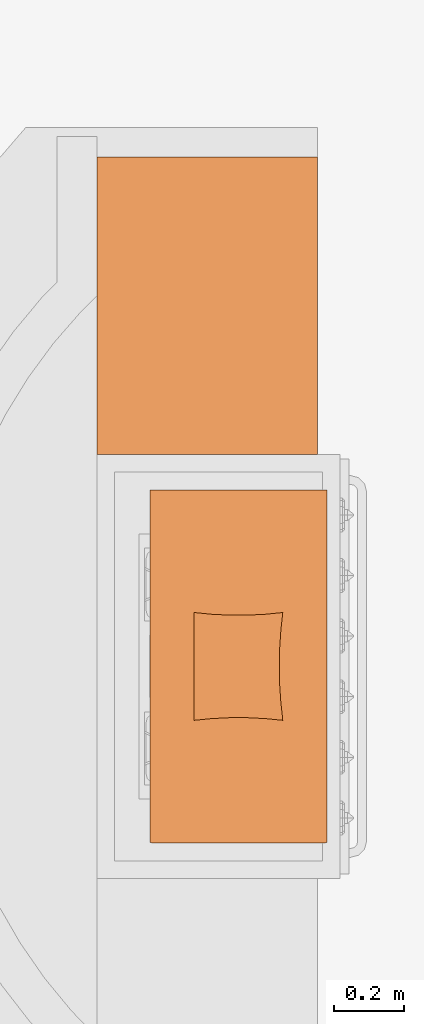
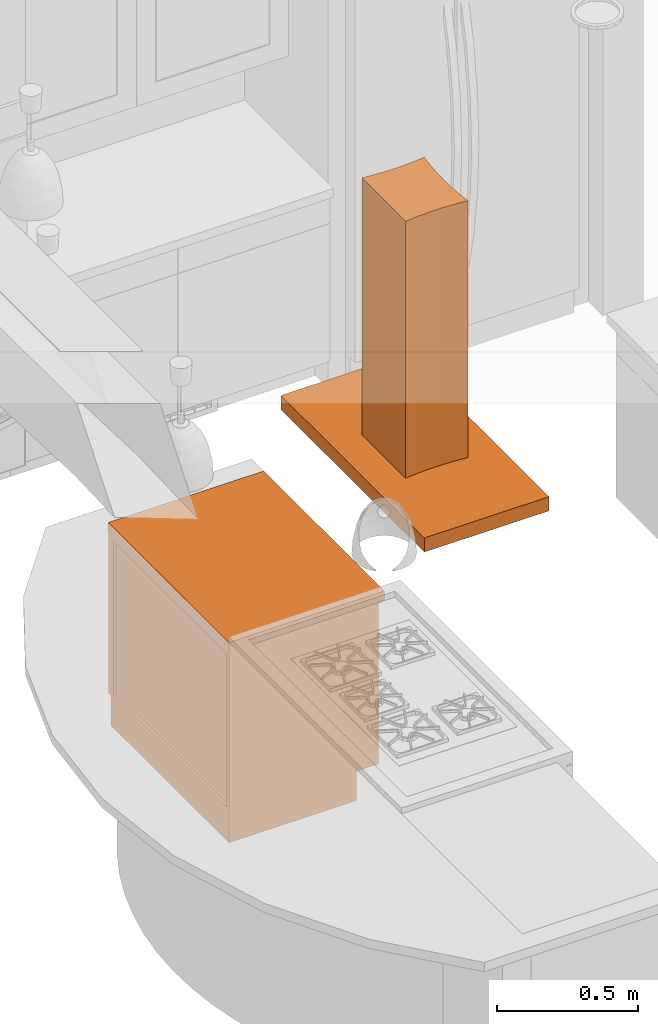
# One storey, part 63 of 77: 2 proxies.
"""IFC2X3 building model written with IfcOpenShell, lengths in inches."""

from ifc_helpers import new_model, entity, si_unit, converted_unit, derived_unit, money_unit, direction, frame, origin_with_axes, place, context, subcontext, project, spatial, open_shell, faceted_brep, surface_model, type_object, element, save


model = new_model("IFC2X3")

# Units and contexts
model_context = context("Model", 3, precision=0.000393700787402, world=origin_with_axes(), true_north=direction((0.0, 1.0)))
body_context = subcontext(model_context, "Body", "Model", "MODEL_VIEW")
ifc_project = project(units=[converted_unit("LENGTHUNIT", "INCH", entity("IfcPositiveLengthMeasure", 0.0254), si_unit("LENGTHUNIT", "METRE"), dimensions=[1, 0, 0, 0, 0, 0, 0]), converted_unit("AREAUNIT", "SQUARE_FOOT", entity("IfcPositiveLengthMeasure", 0.09290304), si_unit("AREAUNIT", "SQUARE_METRE"), dimensions=[2, 0, 0, 0, 0, 0, 0]), si_unit("PLANEANGLEUNIT", "RADIAN"), si_unit("SOLIDANGLEUNIT", "STERADIAN"), money_unit("USD"), converted_unit("TIMEUNIT", "Year", entity("IfcTimeMeasure", 31556926.0), si_unit("TIMEUNIT", "SECOND"), dimensions=[0, 0, 1, 0, 0, 0, 0]), si_unit("MASSUNIT", "GRAM", prefix="KILO"), si_unit("THERMODYNAMICTEMPERATUREUNIT", "DEGREE_CELSIUS"), si_unit("LUMINOUSINTENSITYUNIT", "LUMEN"), si_unit("ENERGYUNIT", "JOULE", prefix="MEGA"), derived_unit("THERMALCONDUCTANCEUNIT", [(si_unit("POWERUNIT", "WATT"), 1), (si_unit("LENGTHUNIT", "METRE"), -1), (si_unit("THERMODYNAMICTEMPERATUREUNIT", "KELVIN"), -1)]), derived_unit("SPECIFICHEATCAPACITYUNIT", [(si_unit("ENERGYUNIT", "JOULE"), 1), (si_unit("MASSUNIT", "GRAM", prefix="KILO"), -1), (si_unit("THERMODYNAMICTEMPERATUREUNIT", "KELVIN"), -1)]), derived_unit("MASSDENSITYUNIT", [(si_unit("MASSUNIT", "GRAM", prefix="KILO"), 1), (si_unit("VOLUMEUNIT", "CUBIC_METRE"), -1)])], contexts=[model_context])

# Site, building, storey
site_placement = place(None, origin_with_axes())
site = spatial("IfcSite", under=ifc_project, at=site_placement, Name="Site", CompositionType="ELEMENT")
building_placement = place(site_placement, origin_with_axes())
building = spatial("IfcBuilding", under=site, at=building_placement, Name="Building", CompositionType="ELEMENT")
storey_placement = place(building_placement, frame((0.0, 0.0, 127.952755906), z_axis=(0.0, 0.0, 1.0), x_axis=(1.0, 0.0, 0.0)))
storey = spatial("IfcBuildingStorey", under=building, at=storey_placement, Name="Second Floor", CompositionType="ELEMENT", Elevation=127.953)

# Proxies
building_element_proxy_type_1 = type_object("IfcBuildingElementProxyType", Name="Base Cabinet Block 25", PredefinedType="NOTDEFINED")
proxy_1_placement = place(storey_placement, frame((528.452121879, 296.433989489, 0.0), z_axis=(0.0, 0.0, 1.0), x_axis=(0.0, 1.0, 0.0)))
element("IfcBuildingElementProxy", 1, at=proxy_1_placement, inside=storey, type_object=building_element_proxy_type_1, Name="OBJ-16", context=body_context, shape_type="Brep", body=[
    faceted_brep([(0.0, -25.0, 32.4803149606), (33.6614173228, -25.0, 32.4803149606), (33.6614173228, -25.0, 34.0551181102), (0.0, -25.0, 34.0551181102), (0.0, 0.0, 32.4803149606), (33.6614173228, 0.0, 32.4803149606), (33.6614173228, 0.0, 34.0551181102), (0.0, 0.0, 34.0551181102)], [[[0, 1, 2, 3]], [[0, 4, 5, 1]], [[1, 5, 6, 2]], [[3, 2, 6, 7]], [[4, 0, 3, 7]], [[5, 4, 7, 6]]]),
    faceted_brep([(0.75, -24.0, 12.125), (32.124015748, -24.0, 12.125), (32.124015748, -24.0, 12.875), (0.75, -24.0, 12.875), (0.75, -0.75, 12.125), (32.124015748, -0.75, 12.125), (32.124015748, -0.75, 12.875), (0.75, -0.75, 12.875)], [[[0, 1, 2, 3]], [[0, 4, 5, 1]], [[1, 5, 6, 2]], [[3, 2, 6, 7]], [[4, 0, 3, 7]], [[5, 4, 7, 6]]]),
    faceted_brep([(0.75, -24.0, 19.625), (32.124015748, -24.0, 19.625), (32.124015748, -24.0, 20.375), (0.75, -24.0, 20.375), (0.75, -0.75, 19.625), (32.124015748, -0.75, 19.625), (32.124015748, -0.75, 20.375), (0.75, -0.75, 20.375)], [[[0, 1, 2, 3]], [[0, 4, 5, 1]], [[1, 5, 6, 2]], [[3, 2, 6, 7]], [[4, 0, 3, 7]], [[5, 4, 7, 6]]]),
    faceted_brep([(0.75, -24.0, 27.125), (32.124015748, -24.0, 27.125), (32.124015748, -24.0, 27.875), (0.75, -24.0, 27.875), (0.75, -0.75, 27.125), (32.124015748, -0.75, 27.125), (32.124015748, -0.75, 27.875), (0.75, -0.75, 27.875)], [[[0, 1, 2, 3]], [[0, 4, 5, 1]], [[1, 5, 6, 2]], [[3, 2, 6, 7]], [[4, 0, 3, 7]], [[5, 4, 7, 6]]]),
    faceted_brep([(0.78937007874, -23.25, 27.9143700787), (32.0846456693, -23.25, 27.9143700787), (32.0846456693, -24.0, 27.9143700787), (0.78937007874, -24.0, 27.9143700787), (0.78937007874, -23.25, 31.6909448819), (32.0846456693, -23.25, 31.6909448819), (32.0846456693, -24.0, 31.6909448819), (0.78937007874, -24.0, 31.6909448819)], [[[0, 1, 2, 3]], [[0, 4, 5, 1]], [[1, 5, 6, 2]], [[3, 2, 6, 7]], [[4, 0, 3, 7]], [[5, 4, 7, 6]]]),
    faceted_brep([(32.874015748, -23.9606299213, 5.03937007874), (32.874015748, -0.0393700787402, 5.03937007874), (33.6614173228, -0.0393700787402, 5.03937007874), (33.6614173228, -23.9606299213, 5.03937007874), (32.874015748, -23.9606299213, 32.4409448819), (32.874015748, -0.0393700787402, 32.4409448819), (33.6614173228, -0.0393700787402, 32.4409448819), (33.6614173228, -23.9606299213, 32.4409448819)], [[[0, 1, 2, 3]], [[0, 4, 5, 1]], [[1, 5, 6, 2]], [[3, 2, 6, 7]], [[4, 0, 3, 7]], [[5, 4, 7, 6]]]),
    faceted_brep([(0.75, -24.0, 5.0), (32.124015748, -24.0, 5.0), (32.124015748, -24.0, 5.75), (0.75, -24.0, 5.75), (0.75, 0.0, 5.0), (32.124015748, 0.0, 5.0), (32.124015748, 0.0, 5.75), (0.75, 0.0, 5.75)], [[[0, 1, 2, 3]], [[0, 4, 5, 1]], [[1, 5, 6, 2]], [[3, 2, 6, 7]], [[4, 0, 3, 7]], [[5, 4, 7, 6]]]),
    faceted_brep([(0.75, -24.0, 31.7303149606), (0.75, -21.6377952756, 31.7303149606), (32.124015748, -21.6377952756, 31.7303149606), (32.124015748, -24.0, 31.7303149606), (0.75, -24.0, 32.4803149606), (0.75, -21.6377952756, 32.4803149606), (32.124015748, -21.6377952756, 32.4803149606), (32.124015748, -24.0, 32.4803149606)], [[[0, 1, 2, 3]], [[0, 4, 5, 1]], [[1, 5, 6, 2]], [[3, 2, 6, 7]], [[4, 0, 3, 7]], [[5, 4, 7, 6]]]),
    faceted_brep([(32.124015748, 0.0, 31.7303149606), (32.124015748, -2.36220472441, 31.7303149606), (0.75, -2.36220472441, 31.7303149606), (0.75, 0.0, 31.7303149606), (32.124015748, 0.0, 32.4803149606), (32.124015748, -2.36220472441, 32.4803149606), (0.75, -2.36220472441, 32.4803149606), (0.75, 0.0, 32.4803149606)], [[[0, 1, 2, 3]], [[0, 4, 5, 1]], [[1, 5, 6, 2]], [[3, 2, 6, 7]], [[4, 0, 3, 7]], [[5, 4, 7, 6]]]),
    faceted_brep([(0.0, 0.0, 5.0), (0.0, -24.0, 5.0), (0.0, -24.0, 32.4803149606), (0.0, 0.0, 32.4803149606), (0.75, 0.0, 5.0), (0.75, -24.0, 5.0), (0.75, -24.0, 32.4803149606), (0.75, 0.0, 32.4803149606)], [[[0, 1, 2, 3]], [[0, 4, 5, 1]], [[1, 5, 6, 2]], [[3, 2, 6, 7]], [[4, 0, 3, 7]], [[5, 4, 7, 6]]]),
    faceted_brep([(32.874015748, -24.0, 5.0), (32.874015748, 0.0, 5.0), (32.874015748, 0.0, 32.4803149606), (32.874015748, -24.0, 32.4803149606), (32.124015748, -24.0, 5.0), (32.124015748, 0.0, 5.0), (32.124015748, 0.0, 32.4803149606), (32.124015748, -24.0, 32.4803149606)], [[[0, 1, 2, 3]], [[0, 4, 5, 1]], [[1, 5, 6, 2]], [[3, 2, 6, 7]], [[4, 0, 3, 7]], [[5, 4, 7, 6]]]),
    faceted_brep([(32.124015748, -0.375, 5.75), (0.75, -0.375, 5.75), (0.75, -0.375, 31.7303149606), (32.124015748, -0.375, 31.7303149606), (32.124015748, -0.75, 5.75), (0.75, -0.75, 5.75), (0.75, -0.75, 31.7303149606), (32.124015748, -0.75, 31.7303149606)], [[[0, 1, 2, 3]], [[0, 4, 5, 1]], [[1, 5, 6, 2]], [[3, 2, 6, 7]], [[4, 0, 3, 7]], [[5, 4, 7, 6]]]),
    faceted_brep([(0.0, -20.5, 0.0), (32.874015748, -20.5, 0.0), (32.874015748, -20.5, 5.0), (0.0, -20.5, 5.0), (0.0, 0.0, 0.0), (32.874015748, 0.0, 0.0), (32.874015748, 0.0, 5.0), (0.0, 0.0, 5.0)], [[[0, 1, 2, 3]], [[0, 4, 5, 1]], [[1, 5, 6, 2]], [[3, 2, 6, 7]], [[4, 0, 3, 7]], [[5, 4, 7, 6]]]),
])
building_element_proxy_type_2 = type_object("IfcBuildingElementProxyType", Name="Hood 25", PredefinedType="NOTDEFINED")
proxy_2_placement = place(storey_placement, frame((554.530862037, 252.437926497, 74.0), z_axis=(0.0, 0.0, 1.0), x_axis=(0.0, 1.0, 0.0)))
element("IfcBuildingElementProxy", 2, at=proxy_2_placement, inside=storey, type_object=building_element_proxy_type_2, Name="FU - 017", context=body_context, shape_type="SurfaceModel", body=[
    faceted_brep([(0.222003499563, 0.0, 2.36220472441), (39.7386264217, 0.0, 2.36220472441), (39.7386264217, 0.0, 2.40157480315), (0.222003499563, 0.0, 2.40157480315), (0.222003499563, 0.0200787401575, 2.36220472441), (0.0222003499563, 0.0200787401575, 2.36220472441), (0.0222003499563, 0.200787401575, 2.36220472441), (0.0, 0.200787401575, 2.36220472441), (0.0, 19.8779527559, 2.36220472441), (0.0222003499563, 19.8779527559, 2.36220472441), (0.0222003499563, 20.0586614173, 2.36220472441), (0.222003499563, 20.0586614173, 2.36220472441), (0.222003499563, 20.0787401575, 2.36220472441), (39.7386264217, 20.0787401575, 2.36220472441), (39.7386264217, 20.0586614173, 2.36220472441), (39.9384295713, 20.0586614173, 2.36220472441), (39.9384295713, 19.8779527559, 2.36220472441), (39.9606299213, 19.8779527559, 2.36220472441), (39.9606299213, 0.200787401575, 2.36220472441), (39.9384295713, 0.200787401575, 2.36220472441), (39.9384295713, 0.0200787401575, 2.36220472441), (39.7386264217, 0.0200787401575, 2.36220472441), (39.7386264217, 0.0200787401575, 2.40157480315), (39.9384295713, 0.0200787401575, 2.40157480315), (39.9384295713, 0.200787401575, 2.40157480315), (39.9606299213, 0.200787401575, 2.40157480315), (39.9606299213, 19.8779527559, 2.40157480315), (39.9384295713, 19.8779527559, 2.40157480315), (39.9384295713, 20.0586614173, 2.40157480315), (39.7386264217, 20.0586614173, 2.40157480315), (39.7386264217, 20.0787401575, 2.40157480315), (0.222003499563, 20.0787401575, 2.40157480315), (0.222003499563, 20.0586614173, 2.40157480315), (0.0222003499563, 20.0586614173, 2.40157480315), (0.0222003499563, 19.8779527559, 2.40157480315), (0.0, 19.8779527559, 2.40157480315), (0.0, 0.200787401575, 2.40157480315), (0.0222003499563, 0.200787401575, 2.40157480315), (0.0222003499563, 0.0200787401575, 2.40157480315), (0.222003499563, 0.0200787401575, 2.40157480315)], [[[0, 1, 2, 3]], [[0, 4, 5, 6, 7, 8, 9, 10, 11, 12, 13, 14, 15, 16, 17, 18, 19, 20, 21, 1]], [[1, 21, 22, 2]], [[3, 2, 22, 23, 24, 25, 26, 27, 28, 29, 30, 31, 32, 33, 34, 35, 36, 37, 38, 39]], [[4, 0, 3, 39]], [[5, 4, 39, 38]], [[6, 5, 38, 37]], [[7, 6, 37, 36]], [[8, 7, 36, 35]], [[9, 8, 35, 34]], [[10, 9, 34, 33]], [[11, 10, 33, 32]], [[12, 11, 32, 31]], [[13, 12, 31, 30]], [[14, 13, 30, 29]], [[15, 14, 29, 28]], [[16, 15, 28, 27]], [[17, 16, 27, 26]], [[18, 17, 26, 25]], [[19, 18, 25, 24]], [[20, 19, 24, 23]], [[21, 20, 23, 22]]]),
    faceted_brep([(0.222003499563, 0.0, 0.0), (39.7386264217, 0.0, 0.0), (39.7386264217, 0.0, 2.36220472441), (0.222003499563, 0.0, 2.36220472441), (0.222003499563, 0.0200787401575, 0.0), (0.0222003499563, 0.0200787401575, 0.0), (0.0222003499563, 0.200787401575, 0.0), (0.0, 0.200787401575, 0.0), (0.0, 19.8779527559, 0.0), (0.0222003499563, 19.8779527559, 0.0), (0.0222003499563, 20.0586614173, 0.0), (0.222003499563, 20.0586614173, 0.0), (0.222003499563, 20.0787401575, 0.0), (39.7386264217, 20.0787401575, 0.0), (39.7386264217, 20.0586614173, 0.0), (39.9384295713, 20.0586614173, 0.0), (39.9384295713, 19.8779527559, 0.0), (39.9606299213, 19.8779527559, 0.0), (39.9606299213, 0.200787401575, 0.0), (39.9384295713, 0.200787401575, 0.0), (39.9384295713, 0.0200787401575, 0.0), (39.7386264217, 0.0200787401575, 0.0), (0.279193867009, 0.0290589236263, 0.0), (39.6814360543, 0.0290589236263, 0.0), (39.6814360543, 0.0490795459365, 0.0), (39.8806608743, 0.0490795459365, 0.0), (39.8806608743, 0.229265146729, 0.0), (39.9027969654, 0.229265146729, 0.0), (39.9027969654, 19.8494750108, 0.0), (39.8806608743, 19.8494750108, 0.0), (39.8806608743, 20.0296606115, 0.0), (39.6814360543, 20.0296606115, 0.0), (39.6814360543, 20.0496812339, 0.0), (0.279193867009, 20.0496812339, 0.0), (0.279193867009, 20.0296606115, 0.0), (0.0799690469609, 20.0296606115, 0.0), (0.0799690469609, 19.8494750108, 0.0), (0.0578329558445, 19.8494750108, 0.0), (0.0578329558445, 0.229265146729, 0.0), (0.0799690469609, 0.229265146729, 0.0), (0.0799690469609, 0.0490795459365, 0.0), (0.279193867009, 0.0490795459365, 0.0), (39.7386264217, 0.0200787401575, 2.36220472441), (39.9384295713, 0.0200787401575, 2.36220472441), (39.9384295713, 0.200787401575, 2.36220472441), (39.9606299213, 0.200787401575, 2.36220472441), (39.9606299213, 19.8779527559, 2.36220472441), (39.9384295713, 19.8779527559, 2.36220472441), (39.9384295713, 20.0586614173, 2.36220472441), (39.7386264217, 20.0586614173, 2.36220472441), (39.7386264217, 20.0787401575, 2.36220472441), (0.222003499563, 20.0787401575, 2.36220472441), (0.222003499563, 20.0586614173, 2.36220472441), (0.0222003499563, 20.0586614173, 2.36220472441), (0.0222003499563, 19.8779527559, 2.36220472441), (0.0, 19.8779527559, 2.36220472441), (0.0, 0.200787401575, 2.36220472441), (0.0222003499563, 0.200787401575, 2.36220472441), (0.0222003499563, 0.0200787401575, 2.36220472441), (0.222003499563, 0.0200787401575, 2.36220472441), (0.279193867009, 0.0290589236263, 2.36220472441), (0.279193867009, 0.0490795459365, 2.36220472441), (0.0799690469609, 0.0490795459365, 2.36220472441), (0.0799690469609, 0.229265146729, 2.36220472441), (0.0578329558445, 0.229265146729, 2.36220472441), (0.0578329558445, 19.8494750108, 2.36220472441), (0.0799690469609, 19.8494750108, 2.36220472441), (0.0799690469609, 20.0296606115, 2.36220472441), (0.279193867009, 20.0296606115, 2.36220472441), (0.279193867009, 20.0496812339, 2.36220472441), (39.6814360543, 20.0496812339, 2.36220472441), (39.6814360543, 20.0296606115, 2.36220472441), (39.8806608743, 20.0296606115, 2.36220472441), (39.8806608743, 19.8494750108, 2.36220472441), (39.9027969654, 19.8494750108, 2.36220472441), (39.9027969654, 0.229265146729, 2.36220472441), (39.8806608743, 0.229265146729, 2.36220472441), (39.8806608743, 0.0490795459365, 2.36220472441), (39.6814360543, 0.0490795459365, 2.36220472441), (39.6814360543, 0.0290589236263, 2.36220472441)], [[[0, 1, 2, 3]], [[0, 4, 5, 6, 7, 8, 9, 10, 11, 12, 13, 14, 15, 16, 17, 18, 19, 20, 21, 1], [22, 23, 24, 25, 26, 27, 28, 29, 30, 31, 32, 33, 34, 35, 36, 37, 38, 39, 40, 41]], [[1, 21, 42, 2]], [[3, 2, 42, 43, 44, 45, 46, 47, 48, 49, 50, 51, 52, 53, 54, 55, 56, 57, 58, 59], [60, 61, 62, 63, 64, 65, 66, 67, 68, 69, 70, 71, 72, 73, 74, 75, 76, 77, 78, 79]], [[4, 0, 3, 59]], [[5, 4, 59, 58]], [[6, 5, 58, 57]], [[7, 6, 57, 56]], [[8, 7, 56, 55]], [[9, 8, 55, 54]], [[10, 9, 54, 53]], [[11, 10, 53, 52]], [[12, 11, 52, 51]], [[13, 12, 51, 50]], [[14, 13, 50, 49]], [[15, 14, 49, 48]], [[16, 15, 48, 47]], [[17, 16, 47, 46]], [[18, 17, 46, 45]], [[19, 18, 45, 44]], [[20, 19, 44, 43]], [[21, 20, 43, 42]], [[23, 22, 60, 79]], [[24, 23, 79, 78]], [[25, 24, 78, 77]], [[26, 25, 77, 76]], [[27, 26, 76, 75]], [[28, 27, 75, 74]], [[29, 28, 74, 73]], [[30, 29, 73, 72]], [[31, 30, 72, 71]], [[32, 31, 71, 70]], [[33, 32, 70, 69]], [[34, 33, 69, 68]], [[35, 34, 68, 67]], [[36, 35, 67, 66]], [[37, 36, 66, 65]], [[38, 37, 65, 64]], [[39, 38, 64, 63]], [[40, 39, 63, 62]], [[41, 40, 62, 61]], [[22, 41, 61, 60]]]),
    surface_model("IfcShellBasedSurfaceModel", [(13.8756627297, 5.02008661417, 2.40157480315), (13.8752187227, 5.01968503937, 2.40157480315), (13.8752187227, 5.01968503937, 46.062992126), (13.8756627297, 5.02008661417, 46.062992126), (14.0740591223, 7.02353259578, 2.40157480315), (14.173578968, 9.03341943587, 2.40157480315), (14.1735789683, 11.045320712, 2.40157480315), (14.074059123, 13.0552075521, 2.40157480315), (13.8752187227, 15.0590551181, 2.40157480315), (13.8756627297, 15.0630708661, 2.40157480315), (26.0854111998, 15.0590551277, 2.40157480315), (25.886570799, 13.0552075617, 2.40157480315), (25.7870509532, 11.0453207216, 2.40157480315), (25.787050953, 9.0334194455, 2.40157480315), (25.8865707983, 7.02353260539, 2.40157480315), (26.0854111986, 5.01968503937, 2.40157480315), (24.0583401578, 5.24260781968, 2.40157480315), (22.0217181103, 5.37657067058, 2.40157480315), (19.9803149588, 5.42125984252, 2.40157480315), (17.9389118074, 5.37657067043, 2.40157480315), (15.9022897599, 5.24260781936, 2.40157480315), (15.9022897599, 5.24260781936, 46.062992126), (17.9389118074, 5.37657067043, 46.062992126), (19.9803149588, 5.42125984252, 46.062992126), (22.0217181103, 5.37657067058, 46.062992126), (24.0583401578, 5.24260781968, 46.062992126), (26.0854111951, 5.01968503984, 46.062992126), (25.8865707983, 7.02353260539, 46.062992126), (25.787050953, 9.0334194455, 46.062992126), (25.7870509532, 11.0453207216, 46.062992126), (25.886570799, 13.0552075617, 46.062992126), (26.0854111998, 15.0590551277, 46.062992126), (13.8756627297, 15.0630708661, 46.062992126), (13.8752187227, 15.0590551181, 46.062992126), (14.074059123, 13.0552075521, 46.062992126), (14.1735789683, 11.045320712, 46.062992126), (14.173578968, 9.03341943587, 46.062992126), (14.0740591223, 7.02353259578, 46.062992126), (13.8752187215, 5.0196850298, 46.062992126), (13.8752187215, 5.0196850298, 2.40157480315), (26.0854111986, 5.01968503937, 46.062992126), (26.0858552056, 5.02008661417, 2.40157480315), (26.0858552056, 5.02008661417, 46.062992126), (26.0854111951, 5.01968503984, 2.40157480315)], [open_shell([[[0, 1, 2, 3]], [[4, 5, 6, 7, 8, 9, 10, 11, 12, 13, 14, 15, 16, 17, 18, 19, 20, 1]], [[1, 20, 21, 2]], [[21, 22, 23, 24, 25, 26, 27, 28, 29, 30, 31, 32, 33, 34, 35, 36, 37, 38]], [[39, 0, 3, 38]], [[4, 39, 38, 37]], [[5, 4, 37, 36]], [[6, 5, 36, 35]], [[7, 6, 35, 34]], [[8, 7, 34, 33]], [[9, 8, 33, 32]], [[10, 9, 32, 31]], [[11, 10, 31, 30]], [[12, 11, 30, 29]], [[13, 12, 29, 28]], [[14, 13, 28, 27]], [[15, 14, 27, 40]], [[41, 15, 40, 42]], [[43, 41, 42, 26]], [[16, 43, 26, 25]], [[17, 16, 25, 24]], [[18, 17, 24, 23]], [[19, 18, 23, 22]], [[20, 19, 22, 21]]])]),
    faceted_brep([(33.7267716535, 2.48632899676, 0.0), (33.8466535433, 2.25991486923, -0.157480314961), (33.8025273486, 2.25991486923, -0.157480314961), (33.7205233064, 2.48632899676, 0.0), (33.7267716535, 1.17194873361, 0.0), (33.8466535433, 1.36904523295, -0.157480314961), (33.6583010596, 1.43793763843, -0.157480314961), (33.4942929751, 1.72340733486, -0.157480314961), (33.5512523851, 2.04803149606, -0.157480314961), (33.3436108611, 2.16850393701, 0.0), (33.2581717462, 1.6815676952, 0.0), (33.5041838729, 1.25336315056, 0.0)], [[[0, 1, 2, 3]], [[1, 0, 4, 5]], [[1, 5, 6, 7, 8, 2]], [[2, 8, 9, 3]], [[4, 0, 3, 9, 10, 11]], [[5, 4, 11, 6]], [[7, 6, 11, 10]], [[8, 7, 10, 9]]]),
    faceted_brep([(34.0864173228, 2.25991486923, -0.157480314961), (34.2062992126, 2.48632899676, 0.0), (34.2125475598, 2.48632899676, 0.0), (34.1305435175, 2.25991486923, -0.157480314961), (34.2062992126, 1.17194873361, 0.0), (34.0864173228, 1.36904523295, -0.157480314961), (34.4288869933, 1.25336315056, 0.0), (34.67489912, 1.6815676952, 0.0), (34.589460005, 2.16850393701, 0.0), (34.381818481, 2.04803149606, -0.157480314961), (34.438777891, 1.72340733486, -0.157480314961), (34.2747698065, 1.43793763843, -0.157480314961)], [[[0, 1, 2, 3]], [[4, 1, 0, 5]], [[1, 4, 6, 7, 8, 2]], [[9, 3, 2, 8]], [[5, 0, 3, 9, 10, 11]], [[4, 5, 11, 6]], [[11, 10, 7, 6]], [[10, 9, 8, 7]]]),
    faceted_brep([(34.2062992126, 1.05413385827, 0.0), (34.2062992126, 2.42751968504, 0.0), (33.7267716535, 2.42751968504, 0.0), (33.7267716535, 1.05413385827, 0.0), (34.0864173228, 1.05413385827, -0.157480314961), (34.0864173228, 2.42751968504, -0.157480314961), (33.9665354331, 2.42751968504, -0.236220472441), (33.8466535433, 2.42751968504, -0.157480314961), (33.8466535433, 1.05413385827, -0.157480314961), (33.9665354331, 1.05413385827, -0.236220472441)], [[[0, 1, 2, 3]], [[4, 5, 1, 0]], [[1, 5, 6, 7, 2]], [[3, 2, 7, 8]], [[0, 3, 8, 9, 4]], [[9, 6, 5, 4]], [[8, 7, 6, 9]]]),
    faceted_brep([(35.4650590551, 1.4155511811, 0.0), (35.4650590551, 1.4155511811, -0.0984251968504), (35.4913934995, 1.35166102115, -0.0984251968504), (35.4913934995, 1.35166102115, 0.0), (35.4650590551, 2.19862204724, 0.0), (35.4650590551, 2.19862204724, -0.0984251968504), (35.4913934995, 2.2625122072, -0.0984251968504), (35.5549704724, 2.28897637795, -0.0984251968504), (35.9745570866, 2.28897637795, -0.0984251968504), (36.0381340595, 2.2625122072, -0.0984251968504), (36.0644685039, 2.19862204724, -0.0984251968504), (36.0644685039, 1.4155511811, -0.0984251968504), (36.0381340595, 1.35166102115, -0.0984251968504), (35.9745570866, 1.32519685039, -0.0984251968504), (35.5549704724, 1.32519685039, -0.0984251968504), (35.5549704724, 1.32519685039, 0.0), (35.9745570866, 1.32519685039, 0.0), (36.0381340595, 1.35166102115, 0.0), (36.0644685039, 1.4155511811, 0.0), (36.0644685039, 2.19862204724, 0.0), (36.0381340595, 2.2625122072, 0.0), (35.9745570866, 2.28897637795, 0.0), (35.5549704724, 2.28897637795, 0.0), (35.4913934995, 2.2625122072, 0.0)], [[[0, 1, 2, 3]], [[4, 5, 1, 0]], [[1, 5, 6, 7, 8, 9, 10, 11, 12, 13, 14, 2]], [[3, 2, 14, 15]], [[0, 3, 15, 16, 17, 18, 19, 20, 21, 22, 23, 4]], [[23, 6, 5, 4]], [[22, 7, 6, 23]], [[21, 8, 7, 22]], [[20, 9, 8, 21]], [[19, 10, 9, 20]], [[18, 11, 10, 19]], [[17, 12, 11, 18]], [[16, 13, 12, 17]], [[15, 14, 13, 16]]]),
    faceted_brep([(35.9745570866, 2.18059575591, -0.175178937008), (35.5549704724, 2.18059575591, -0.175178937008), (35.5549704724, 2.19862159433, -0.0984243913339), (35.9745570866, 2.19862159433, -0.0984243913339), (35.9745570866, 2.07788734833, -0.283253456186), (35.5549704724, 2.07788734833, -0.283253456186), (35.5549704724, 2.05588908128, -0.290143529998), (35.5549704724, 2.03191919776, -0.287184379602), (35.5549704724, 2.01528314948, -0.275524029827), (35.5549704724, 1.78237838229, -0.146999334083), (35.5549704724, 1.47904144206, -0.166585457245), (35.5549704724, 1.45574757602, -0.168987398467), (35.5549704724, 1.43456810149, -0.162209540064), (35.5549704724, 1.42318480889, -0.148711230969), (35.5549704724, 1.4155511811, -0.0984251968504), (35.9745570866, 1.4155511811, -0.0984251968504), (35.9745570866, 1.42318480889, -0.148711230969), (35.9745570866, 1.43456810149, -0.162209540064), (35.9745570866, 1.45574757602, -0.168987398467), (35.9745570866, 1.47904144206, -0.166585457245), (35.9745570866, 1.78237838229, -0.146999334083), (35.9745570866, 2.01528314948, -0.275524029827), (35.9745570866, 2.03191919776, -0.287184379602), (35.9745570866, 2.05588908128, -0.290143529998)], [[[0, 1, 2, 3]], [[4, 5, 1, 0]], [[1, 5, 6, 7, 8, 9, 10, 11, 12, 13, 14, 2]], [[3, 2, 14, 15]], [[0, 3, 15, 16, 17, 18, 19, 20, 21, 22, 23, 4]], [[23, 6, 5, 4]], [[22, 7, 6, 23]], [[21, 8, 7, 22]], [[20, 9, 8, 21]], [[19, 10, 9, 20]], [[18, 11, 10, 19]], [[17, 12, 11, 18]], [[16, 13, 12, 17]], [[15, 14, 13, 16]]]),
    faceted_brep([(36.543996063, 1.4155511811, 0.0), (36.543996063, 1.4155511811, -0.0984251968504), (36.5703305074, 1.35166102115, -0.0984251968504), (36.5703305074, 1.35166102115, 0.0), (36.543996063, 2.19862204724, 0.0), (36.543996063, 2.19862204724, -0.0984251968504), (36.5703305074, 2.2625122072, -0.0984251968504), (36.6339074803, 2.28897637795, -0.0984251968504), (37.0534940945, 2.28897637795, -0.0984251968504), (37.1170710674, 2.2625122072, -0.0984251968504), (37.1434055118, 2.19862204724, -0.0984251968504), (37.1434055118, 1.4155511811, -0.0984251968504), (37.1170710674, 1.35166102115, -0.0984251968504), (37.0534940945, 1.32519685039, -0.0984251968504), (36.6339074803, 1.32519685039, -0.0984251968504), (36.6339074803, 1.32519685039, 0.0), (37.0534940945, 1.32519685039, 0.0), (37.1170710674, 1.35166102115, 0.0), (37.1434055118, 1.4155511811, 0.0), (37.1434055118, 2.19862204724, 0.0), (37.1170710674, 2.2625122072, 0.0), (37.0534940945, 2.28897637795, 0.0), (36.6339074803, 2.28897637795, 0.0), (36.5703305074, 2.2625122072, 0.0)], [[[0, 1, 2, 3]], [[4, 5, 1, 0]], [[1, 5, 6, 7, 8, 9, 10, 11, 12, 13, 14, 2]], [[3, 2, 14, 15]], [[0, 3, 15, 16, 17, 18, 19, 20, 21, 22, 23, 4]], [[23, 6, 5, 4]], [[22, 7, 6, 23]], [[21, 8, 7, 22]], [[20, 9, 8, 21]], [[19, 10, 9, 20]], [[18, 11, 10, 19]], [[17, 12, 11, 18]], [[16, 13, 12, 17]], [[15, 14, 13, 16]]]),
    faceted_brep([(37.0534940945, 2.18059575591, -0.175178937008), (36.6339074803, 2.18059575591, -0.175178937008), (36.6339074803, 2.19862159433, -0.0984243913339), (37.0534940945, 2.19862159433, -0.0984243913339), (37.0534940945, 2.07788734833, -0.283253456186), (36.6339074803, 2.07788734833, -0.283253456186), (36.6339074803, 2.05588908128, -0.290143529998), (36.6339074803, 2.03191919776, -0.287184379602), (36.6339074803, 2.01528314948, -0.275524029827), (36.6339074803, 1.78237838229, -0.146999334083), (36.6339074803, 1.47904144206, -0.166585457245), (36.6339074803, 1.45574757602, -0.168987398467), (36.6339074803, 1.43456810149, -0.162209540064), (36.6339074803, 1.42318480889, -0.148711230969), (36.6339074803, 1.4155511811, -0.0984251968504), (37.0534940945, 1.4155511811, -0.0984251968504), (37.0534940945, 1.42318480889, -0.148711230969), (37.0534940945, 1.43456810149, -0.162209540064), (37.0534940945, 1.45574757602, -0.168987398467), (37.0534940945, 1.47904144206, -0.166585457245), (37.0534940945, 1.78237838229, -0.146999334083), (37.0534940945, 2.01528314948, -0.275524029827), (37.0534940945, 2.03191919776, -0.287184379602), (37.0534940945, 2.05588908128, -0.290143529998)], [[[0, 1, 2, 3]], [[4, 5, 1, 0]], [[1, 5, 6, 7, 8, 9, 10, 11, 12, 13, 14, 2]], [[3, 2, 14, 15]], [[0, 3, 15, 16, 17, 18, 19, 20, 21, 22, 23, 4]], [[23, 6, 5, 4]], [[22, 7, 6, 23]], [[21, 8, 7, 22]], [[20, 9, 8, 21]], [[19, 10, 9, 20]], [[18, 11, 10, 19]], [[17, 12, 11, 18]], [[16, 13, 12, 17]], [[15, 14, 13, 16]]]),
    faceted_brep([(37.6229330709, 1.4155511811, 0.0), (37.6229330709, 1.4155511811, -0.0984251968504), (37.6492675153, 1.35166102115, -0.0984251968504), (37.6492675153, 1.35166102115, 0.0), (37.6229330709, 2.19862204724, 0.0), (37.6229330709, 2.19862204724, -0.0984251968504), (37.6492675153, 2.2625122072, -0.0984251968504), (37.7128444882, 2.28897637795, -0.0984251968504), (38.1324311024, 2.28897637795, -0.0984251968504), (38.1960080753, 2.2625122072, -0.0984251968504), (38.2223425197, 2.19862204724, -0.0984251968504), (38.2223425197, 1.4155511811, -0.0984251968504), (38.1960080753, 1.35166102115, -0.0984251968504), (38.1324311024, 1.32519685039, -0.0984251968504), (37.7128444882, 1.32519685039, -0.0984251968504), (37.7128444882, 1.32519685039, 0.0), (38.1324311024, 1.32519685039, 0.0), (38.1960080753, 1.35166102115, 0.0), (38.2223425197, 1.4155511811, 0.0), (38.2223425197, 2.19862204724, 0.0), (38.1960080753, 2.2625122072, 0.0), (38.1324311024, 2.28897637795, 0.0), (37.7128444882, 2.28897637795, 0.0), (37.6492675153, 2.2625122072, 0.0)], [[[0, 1, 2, 3]], [[4, 5, 1, 0]], [[1, 5, 6, 7, 8, 9, 10, 11, 12, 13, 14, 2]], [[3, 2, 14, 15]], [[0, 3, 15, 16, 17, 18, 19, 20, 21, 22, 23, 4]], [[23, 6, 5, 4]], [[22, 7, 6, 23]], [[21, 8, 7, 22]], [[20, 9, 8, 21]], [[19, 10, 9, 20]], [[18, 11, 10, 19]], [[17, 12, 11, 18]], [[16, 13, 12, 17]], [[15, 14, 13, 16]]]),
    faceted_brep([(38.1324311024, 2.18059575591, -0.175178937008), (37.7128444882, 2.18059575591, -0.175178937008), (37.7128444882, 2.19862159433, -0.0984243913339), (38.1324311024, 2.19862159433, -0.0984243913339), (38.1324311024, 2.07788734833, -0.283253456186), (37.7128444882, 2.07788734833, -0.283253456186), (37.7128444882, 2.05588908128, -0.290143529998), (37.7128444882, 2.03191919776, -0.287184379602), (37.7128444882, 2.01528314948, -0.275524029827), (37.7128444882, 1.78237838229, -0.146999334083), (37.7128444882, 1.47904144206, -0.166585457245), (37.7128444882, 1.45574757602, -0.168987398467), (37.7128444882, 1.43456810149, -0.162209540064), (37.7128444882, 1.42318480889, -0.148711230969), (37.7128444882, 1.4155511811, -0.0984251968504), (38.1324311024, 1.4155511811, -0.0984251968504), (38.1324311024, 1.42318480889, -0.148711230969), (38.1324311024, 1.43456810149, -0.162209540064), (38.1324311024, 1.45574757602, -0.168987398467), (38.1324311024, 1.47904144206, -0.166585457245), (38.1324311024, 1.78237838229, -0.146999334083), (38.1324311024, 2.01528314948, -0.275524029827), (38.1324311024, 2.03191919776, -0.287184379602), (38.1324311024, 2.05588908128, -0.290143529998)], [[[0, 1, 2, 3]], [[4, 5, 1, 0]], [[1, 5, 6, 7, 8, 9, 10, 11, 12, 13, 14, 2]], [[3, 2, 14, 15]], [[0, 3, 15, 16, 17, 18, 19, 20, 21, 22, 23, 4]], [[23, 6, 5, 4]], [[22, 7, 6, 23]], [[21, 8, 7, 22]], [[20, 9, 8, 21]], [[19, 10, 9, 20]], [[18, 11, 10, 19]], [[17, 12, 11, 18]], [[16, 13, 12, 17]], [[15, 14, 13, 16]]]),
    faceted_brep([(38.9763779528, 3.14960629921, -0.0393700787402), (38.9763779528, 19.094488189, -0.0393700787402), (38.9763779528, 19.094488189, 0.0), (38.9763779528, 3.14960629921, 0.0), (0.984251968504, 3.14960629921, -0.0393700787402), (0.984251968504, 19.094488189, -0.0393700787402), (0.984251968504, 19.094488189, 0.0), (0.984251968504, 3.14960629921, 0.0)], [[[0, 1, 2, 3]], [[0, 4, 5, 1]], [[1, 5, 6, 2]], [[3, 2, 6, 7]], [[4, 0, 3, 7]], [[5, 4, 7, 6]]]),
    faceted_brep([(39.8818897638, 0.0787401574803, 0.0), (39.8818897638, 20.0, 0.0), (39.8818897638, 20.0, 0.393700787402), (39.8818897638, 0.0787401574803, 0.393700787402), (0.0787401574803, 0.0787401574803, 0.0), (0.0787401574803, 20.0, 0.0), (38.9763779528, 3.14960629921, 0.0), (38.9763779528, 19.094488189, 0.0), (0.984251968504, 19.094488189, 0.0), (0.984251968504, 3.14960629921, 0.0), (0.0787401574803, 20.0, 0.393700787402), (0.0787401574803, 0.0787401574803, 0.393700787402), (38.9763779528, 3.14960629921, 0.393700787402), (0.984251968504, 3.14960629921, 0.393700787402), (0.984251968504, 19.094488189, 0.393700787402), (38.9763779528, 19.094488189, 0.393700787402)], [[[0, 1, 2, 3]], [[0, 4, 5, 1], [6, 7, 8, 9]], [[1, 5, 10, 2]], [[3, 2, 10, 11], [12, 13, 14, 15]], [[4, 0, 3, 11]], [[5, 4, 11, 10]], [[7, 6, 12, 15]], [[8, 7, 15, 14]], [[9, 8, 14, 13]], [[6, 9, 13, 12]]]),
])

save(model, "model.ifc")
